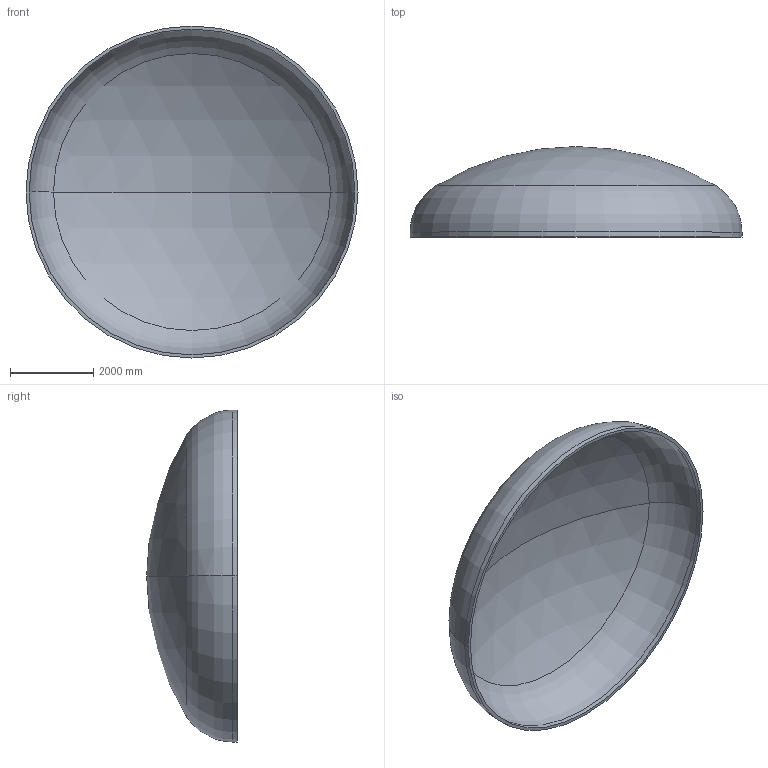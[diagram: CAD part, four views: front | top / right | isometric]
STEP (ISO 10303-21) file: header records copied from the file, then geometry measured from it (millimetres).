
FILE_DESCRIPTION (( 'STEP AP203' ), '1' );
FILE_NAME ('DIN 28013 Korbbogenform_-_Boden DIN 28013 - 8000 x 120 - I - s=74.step', '2016-07-04T11:03:40', ( '' ), ( '' ), 'SwSTEP 2.0', 'SolidWorks 2013', '' );
FILE_SCHEMA (( 'CONFIG_CONTROL_DESIGN' ));
Length unit declared in the file: millimetre
Products named in the file (1): DIN 28013 Korbbogenform_-_Boden DIN 28013 - 8000 x 120 - I - s=74
Bounding box: 8000 x 2182.6 x 8000 mm (x, y, z)
Volume: 5308523934.5 mm3; surface area: 145327652.5 mm2
Topology: 1 solids, 1 shells, 13 faces, 24 edges, 14 vertices
Faces by surface type: torus 4, cylinder 4, sphere 4, plane 1
Entity records: 407 total; most frequent: DIRECTION 72, CARTESIAN_POINT 52, ORIENTED_EDGE 48, AXIS2_PLACEMENT_3D 34, EDGE_CURVE 24, CIRCLE 20, EDGE_LOOP 14, VERTEX_POINT 14
